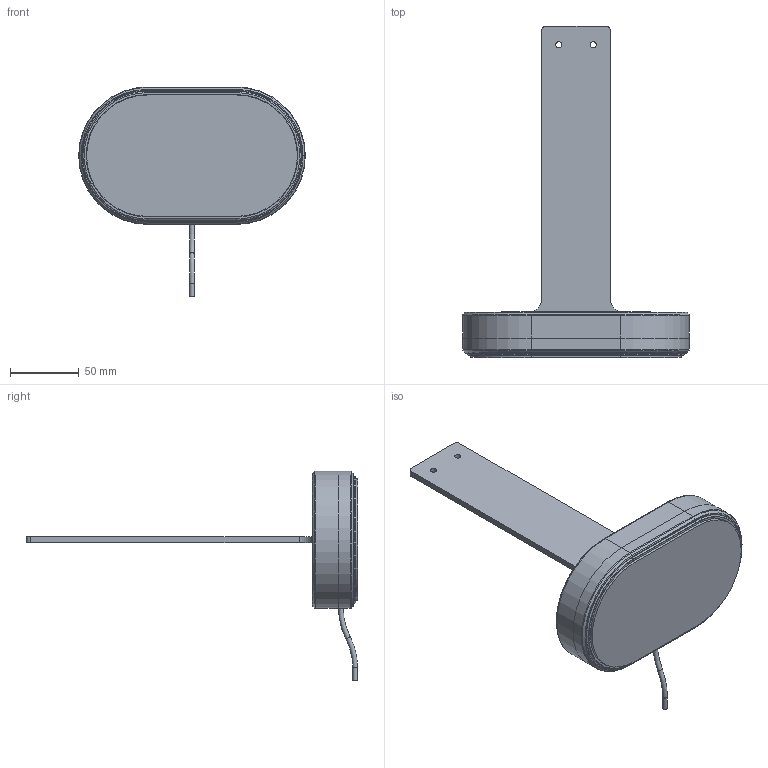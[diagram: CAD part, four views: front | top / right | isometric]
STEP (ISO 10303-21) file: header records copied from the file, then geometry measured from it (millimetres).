
FILE_DESCRIPTION (( 'STEP AP214' ), '1' );
FILE_NAME ('MONO_038-a306_02.STEP', '2026-03-23T06:29:15', ( '' ), ( '' ), 'SwSTEP 2.0', 'SolidWorks 2024', '' );
FILE_SCHEMA (( 'AUTOMOTIVE_DESIGN' ));
Length unit declared in the file: millimetre
Products named in the file (17): M4 Socket Cap Screw x 20mm_20mm; M4 Zinc Pan Pozi (PZ2) HI-PLAS Plastite Screw; M4 Threaded Wood Insert; MONO_038-p309; MONO_038-a310; MONO_038-a311; Nut_M4; MONO_038-p322; MONO_038-a306_02; LED Strip 1; MONO_038-p308; MONO_038-p315; MONO_038-p321; MONO_038-a307; M4 BUT Head Screw_20mm; MONO_038-p316; MONO_038-a320
Assembly tree (30 placements, depth 4):
  MONO_038-a306_02
    MONO_038-a307
      MONO_038-p308
      M4 Threaded Wood Insert  x4
    MONO_038-a310
      MONO_038-a311
        MONO_038-p315
        MONO_038-p316
        LED Strip 1
        M4 Zinc Pan Pozi (PZ2) HI-PLAS Plastite Screw  x2
      MONO_038-a320
        MONO_038-p321
        MONO_038-p322
        Nut_M4  x2
        M4 BUT Head Screw_20mm  x2
      M4 Zinc Pan Pozi (PZ2) HI-PLAS Plastite Screw  x5
    MONO_038-p309
    M4 Socket Cap Screw x 20mm_20mm  x4
Bounding box: 165 x 241 x 152.81 mm (x, y, z)
Volume: 378561 mm3; surface area: 182612.8 mm2
Topology: 26 solids, 26 shells, 1179 faces, 2813 edges, 1731 vertices
Faces by surface type: plane 614, cylinder 344, cone 83, torus 81, bspline 34, sphere 23
Full cylindrical faces by diameter (mm): 3.3 x7, 3.5 x4, 4 x19, 4.2 x4, 4.5 x8, 4.6 x7, 5.5 x4, 7 x4, 7.6 x2, 8.2 x4, 8.5 x4, 9.3 x2, 12.5 x1
Entity records: 27789 total; most frequent: CARTESIAN_POINT 5885, DIRECTION 4672, ORIENTED_EDGE 4226, EDGE_CURVE 2113, AXIS2_PLACEMENT_3D 1734, VERTEX_POINT 1349, VECTOR 1204, LINE 1204
